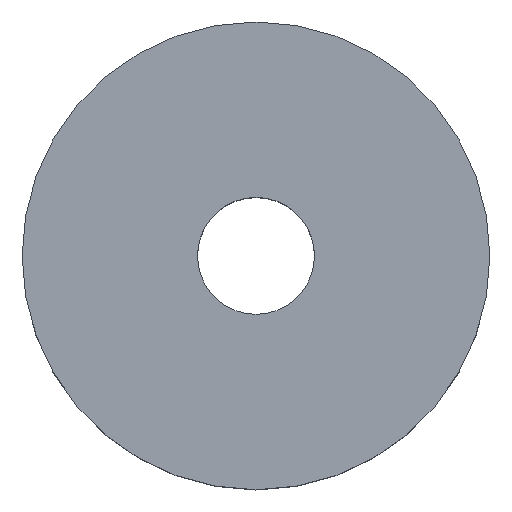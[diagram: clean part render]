
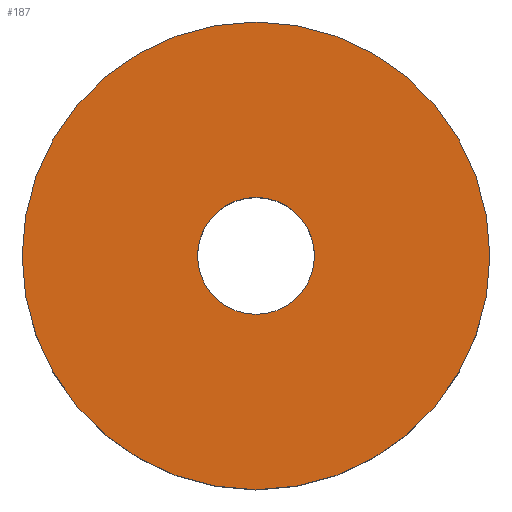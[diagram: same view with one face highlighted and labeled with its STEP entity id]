
A CAD part, top view. The second image highlights one B-rep face of the part: STEP entity #187.
In plain terms, the highlighted planar face has unit normal (0, 0, 1).
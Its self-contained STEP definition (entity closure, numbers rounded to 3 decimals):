
#132=CARTESIAN_POINT('',(1.5,0.,1.95));
#133=VERTEX_POINT('',#132);
#134=CARTESIAN_POINT('',(0.0,0.0,1.95));
#135=DIRECTION('',(0.0,0.0,-1.0));
#136=DIRECTION('',(-1.0,0.0,0.0));
#137=AXIS2_PLACEMENT_3D('',#134,#135,#136);
#138=CIRCLE('',#137,1.5);
#139=EDGE_CURVE('',#133,#133,#138,.T.);
#164=CARTESIAN_POINT('',(6.,0.,1.95));
#165=VERTEX_POINT('',#164);
#166=CARTESIAN_POINT('',(0.0,0.0,1.95));
#167=DIRECTION('',(0.0,0.0,-1.0));
#168=DIRECTION('',(-1.0,0.0,0.0));
#169=AXIS2_PLACEMENT_3D('',#166,#167,#168);
#170=CIRCLE('',#169,6.);
#171=EDGE_CURVE('',#165,#165,#170,.T.);
#176=CARTESIAN_POINT('',(0.0,0.0,1.95));
#177=DIRECTION('',(0.0,0.0,-1.0));
#178=DIRECTION('',(-1.0,0.0,0.0));
#179=AXIS2_PLACEMENT_3D('',#176,#177,#178);
#180=PLANE('',#179);
#181=ORIENTED_EDGE('',*,*,#171,.F.);
#182=EDGE_LOOP('',(#181));
#183=FACE_OUTER_BOUND('',#182,.T.);
#184=ORIENTED_EDGE('',*,*,#139,.T.);
#185=EDGE_LOOP('',(#184));
#186=FACE_BOUND('',#185,.T.);
#187=ADVANCED_FACE('',(#183,#186),#180,.F.);
